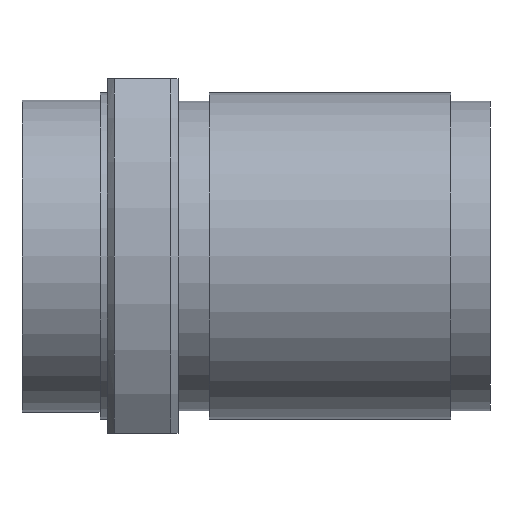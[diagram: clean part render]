
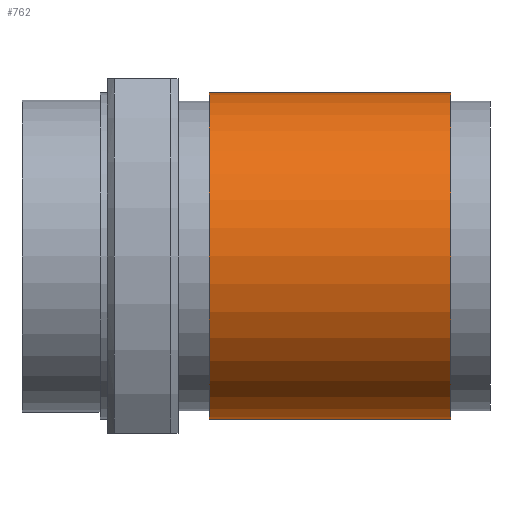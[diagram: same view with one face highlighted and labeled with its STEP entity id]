
A CAD part, front view. The second image highlights one B-rep face of the part: STEP entity #762.
In plain terms, the highlighted cylindrical face has radius 11.5 mm (diameter 23 mm), a full revolution.
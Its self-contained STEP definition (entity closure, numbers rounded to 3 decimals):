
#67=CYLINDRICAL_SURFACE('',#872,11.5);
#137=ORIENTED_EDGE('',*,*,#288,.T.);
#138=ORIENTED_EDGE('',*,*,#287,.F.);
#287=EDGE_CURVE('',#367,#367,#437,.T.);
#288=EDGE_CURVE('',#368,#368,#438,.T.);
#367=VERTEX_POINT('',#1311);
#368=VERTEX_POINT('',#1314);
#437=CIRCLE('',#871,11.5);
#438=CIRCLE('',#873,11.5);
#508=EDGE_LOOP('',(#137));
#509=EDGE_LOOP('',(#138));
#630=FACE_BOUND('',#508,.T.);
#631=FACE_BOUND('',#509,.T.);
#762=ADVANCED_FACE('',(#630,#631),#67,.T.);
#871=AXIS2_PLACEMENT_3D('',#1310,#1038,#1039);
#872=AXIS2_PLACEMENT_3D('',#1312,#1040,#1041);
#873=AXIS2_PLACEMENT_3D('',#1313,#1042,#1043);
#1038=DIRECTION('',(1.,0.,0.));
#1039=DIRECTION('',(0.,0.,-1.));
#1040=DIRECTION('',(1.,0.,0.));
#1041=DIRECTION('',(0.,0.,-1.));
#1042=DIRECTION('',(1.,0.,0.));
#1043=DIRECTION('',(0.,0.,-1.));
#1310=CARTESIAN_POINT('',(30.25,0.,0.));
#1311=CARTESIAN_POINT('',(30.25,0.,-11.5));
#1312=CARTESIAN_POINT('',(33.,0.,0.));
#1313=CARTESIAN_POINT('',(13.2,0.,0.));
#1314=CARTESIAN_POINT('',(13.2,0.,-11.5));
